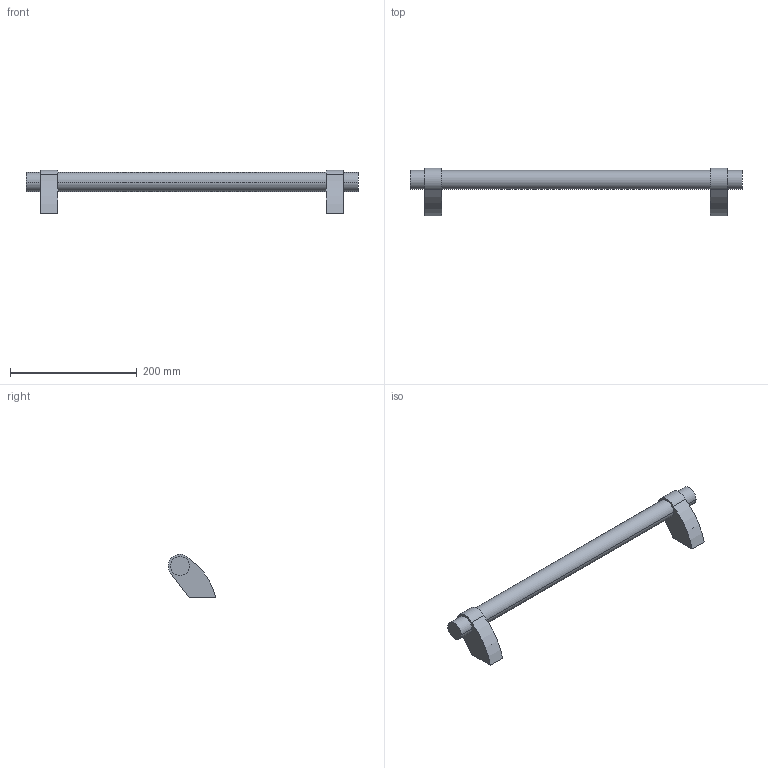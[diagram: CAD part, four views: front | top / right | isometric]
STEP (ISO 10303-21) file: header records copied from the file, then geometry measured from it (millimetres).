
FILE_DESCRIPTION (( 'STEP AP203' ), '1' );
FILE_NAME ('oth30-495ep.STEP', '2021-10-26T04:45:39', ( '' ), ( '' ), 'SwSTEP 2.0', 'SolidWorks 2020', '' );
FILE_SCHEMA (( 'CONFIG_CONTROL_DESIGN' ));
Length unit declared in the file: millimetre
Products named in the file (4): oth30-495ep_02; oth30-495ep_01; oth30-495ep; oth30-495ep_03
Assembly tree (3 placements, depth 2):
  oth30-495ep
    oth30-495ep_01
    oth30-495ep_02
    oth30-495ep_03
Bounding box: 524 x 75 x 68.45 mm (x, y, z)
Volume: 492921.4 mm3; surface area: 79667.7 mm2
Topology: 3 solids, 3 shells, 34 faces, 72 edges, 48 vertices
Faces by surface type: cylinder 20, plane 14
Entity records: 1358 total; most frequent: DIRECTION 192, CARTESIAN_POINT 160, ORIENTED_EDGE 144, AXIS2_PLACEMENT_3D 80, EDGE_CURVE 72, VERTEX_POINT 48, EDGE_LOOP 42, CIRCLE 40
